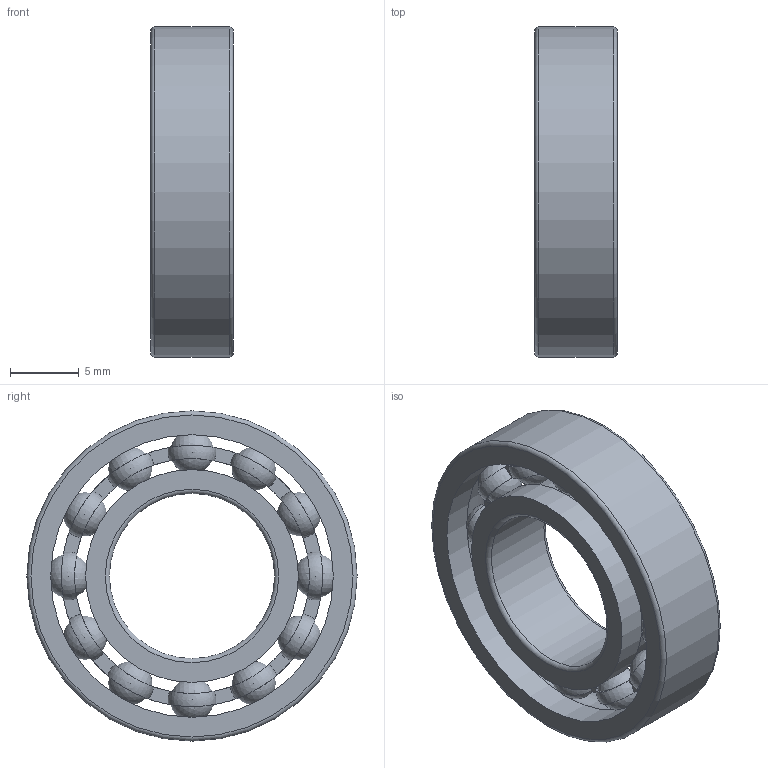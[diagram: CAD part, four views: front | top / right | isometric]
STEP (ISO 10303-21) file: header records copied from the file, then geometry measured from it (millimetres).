
FILE_DESCRIPTION(/* description */ (''),/* implementation_level */ '2;1');
FILE_NAME(/* name */ 'D:\moje\parametrické\619--\rada619--\619--\61901.stp',/* time_stamp */ '2016-02-02T10:15:51+01:00',/* author */ ('OUBALASKO'),/* organization */ (''),/* preprocessor_version */ 'ST-DEVELOPER v15.2',/* originating_system */ 'Autodesk Inventor 2014',/* authorisation */ '');
FILE_SCHEMA (('AUTOMOTIVE_DESIGN { 1 0 10303 214 3 1 1 }'));
Length unit declared in the file: millimetre
Products named in the file (5): 61901-02; 61901-ball; 61901-cage; 61901-01; 61901
Bounding box: 6 x 24 x 24 mm (x, y, z)
Volume: 1347.6 mm3; surface area: 2463.1 mm2
Topology: 16 solids, 16 shells, 128 faces, 504 edges, 332 vertices
Faces by surface type: sphere 60, plane 52, cylinder 10, torus 6
Full cylindrical faces by diameter (mm): 12 x1, 15.46 x2, 17.047 x2, 18.953 x2, 20.54 x2, 24 x1
Entity records: 3072 total; most frequent: CARTESIAN_POINT 1275, DIRECTION 402, ORIENTED_EDGE 322, AXIS2_PLACEMENT_3D 201, EDGE_CURVE 161, VERTEX_POINT 114, CIRCLE 113, EDGE_LOOP 85
